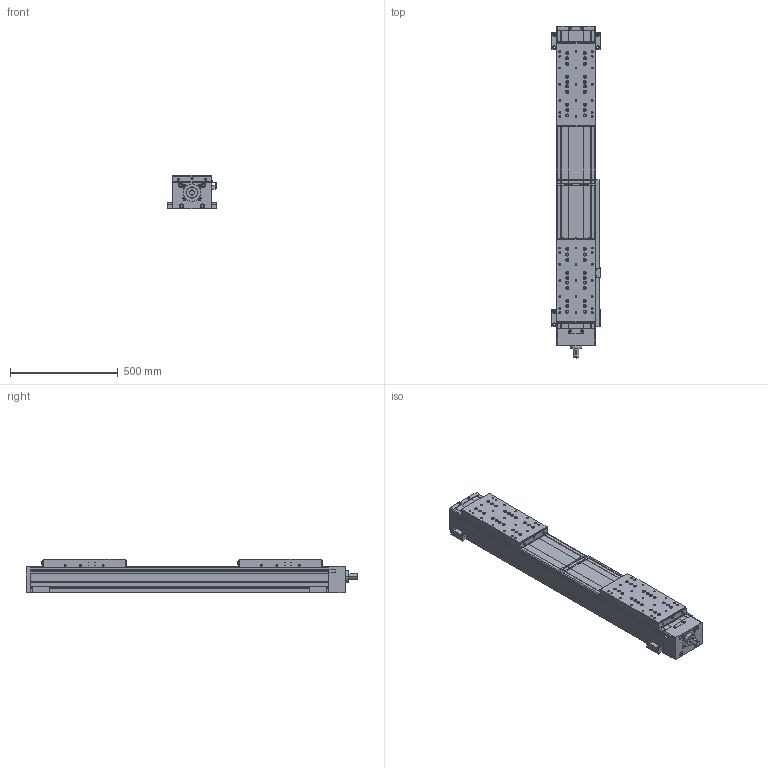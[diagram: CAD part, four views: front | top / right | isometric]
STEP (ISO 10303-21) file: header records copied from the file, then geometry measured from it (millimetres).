
FILE_DESCRIPTION(('Creo Elements/Direct Modeling STEP Export'),'2;1');
FILE_NAME('B180-C-SSS-RL-380-EN.stp','2025-01-14T15:03:50',(''),(''),'Creo Elements/Direct Modeling STEP processor for AP214 (Solid Model)','Creo Elements/Direct Modeling 20.1D 10-Oct-2020 (C) Parametric Technology GmbH','');
FILE_SCHEMA(('AUTOMOTIVE_DESIGN { 1 0 10303 214 1 1 1 1 }'));
Products named in the file (21): B180-C-SSS-GRUNDKOERPER-BLAU.PRT; B180-C-S-GRUNDKOERPER.ASM; BETA-S-GRUNDKOERPER.ASM; B180-C-SSS-SCHLITTEN-380.PRT; B180-ABSTREIFER-BUERSTE-B_10594.PRT; M5X12_ISO7380-1_10254.PRT; B180-ABSTREIFER-BUERSTE-BLAU.ASM; B180-ABSTREIFER.ASM; B180-C-S-SCHLITTEN.ASM; BETA-S-SCHLITTEN.ASM; EN-SCHALTFAHNE-10407.PRT; M4X6_ISO7380-1_10251.PRT.103; EN-SCHALTFAHNE-10407.ASM; EN-LEISTE.PRT; EN-SCHALTER.PRT.54; INDUKTIVE-ENDSCHALTER.ASM; BETA-ENDSCHALTER.ASM; BL3_10554.PRT.53; BL3-PAAR_10554.ASM; BETA-BEFESTIGUNGSELEMENTE.ASM; B180-C-SSS-RL-380-EN-Leiste-Seite-C
Assembly tree (29 placements, depth 6):
  B180-C-SSS-RL-380-EN-Leiste-Seite-C
    BETA-BEFESTIGUNGSELEMENTE.ASM
      BL3-PAAR_10554.ASM  x2
        BL3_10554.PRT.53
    BETA-ENDSCHALTER.ASM
      INDUKTIVE-ENDSCHALTER.ASM
        EN-SCHALTER.PRT.54  x3
        EN-LEISTE.PRT
      EN-SCHALTFAHNE-10407.ASM
        M4X6_ISO7380-1_10251.PRT.103  x2
        EN-SCHALTFAHNE-10407.PRT
    BETA-S-SCHLITTEN.ASM
      B180-C-S-SCHLITTEN.ASM  x2
        B180-ABSTREIFER.ASM
          B180-ABSTREIFER-BUERSTE-BLAU.ASM
            M5X12_ISO7380-1_10254.PRT  x3
            B180-ABSTREIFER-BUERSTE-B_10594.PRT
        B180-C-SSS-SCHLITTEN-380.PRT
    BETA-S-GRUNDKOERPER.ASM
      B180-C-S-GRUNDKOERPER.ASM
        B180-C-SSS-GRUNDKOERPER-BLAU.PRT
Bounding box: 224 x 1540 x 155 mm (x, y, z)
Volume: 35962359.5 mm3; surface area: 1762926.2 mm2
Topology: 30 solids, 30 shells, 6155 faces, 16546 edges, 10836 vertices
Faces by surface type: plane 5179, cylinder 646, cone 274, torus 28, sphere 28
Entity records: 195310 total; most frequent: CARTESIAN_POINT 28947, ORIENTED_EDGE 28752, DIRECTION 24925, EDGE_CURVE 14376, VECTOR 13607, LINE 13607, VERTEX_POINT 9513, AXIS2_PLACEMENT_3D 5659
